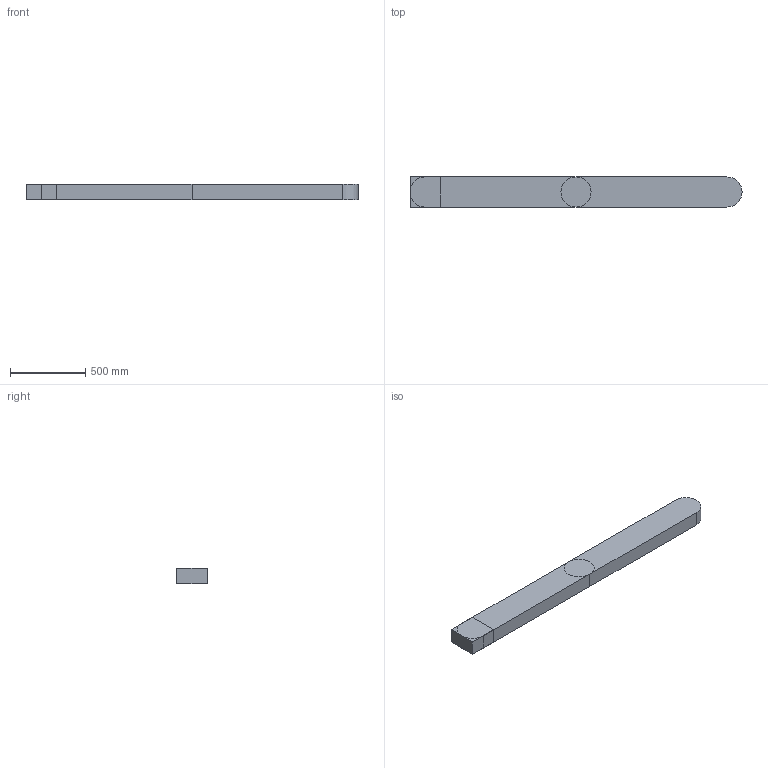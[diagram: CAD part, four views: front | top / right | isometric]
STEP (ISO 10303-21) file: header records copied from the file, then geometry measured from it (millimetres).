
FILE_DESCRIPTION((''),'2;1');
FILE_NAME('2DOFROBOT_ASM','2023-07-26T14:21:50',('AirAd'),(''),'CREO PARAMETRIC BY PTC INC, 2022073','CREO PARAMETRIC BY PTC INC, 2022073','');
FILE_SCHEMA(('CONFIG_CONTROL_DESIGN'));
Length unit declared in the file: millimetre
Products named in the file (3): LINKS; BOX; 2DOFROBOT_ASM
Assembly tree (3 placements, depth 2):
  2DOFROBOT_ASM
    LINKS  x2
    BOX
Bounding box: 2200 x 200 x 100 mm (x, y, z)
Surface area: 1611327.4 mm2
Topology: 3 solids, 3 shells, 18 faces, 44 edges, 32 vertices
Faces by surface type: plane 14, cylinder 4
Entity records: 448 total; most frequent: DIRECTION 72, CARTESIAN_POINT 66, ORIENTED_EDGE 56, EDGE_CURVE 28, AXIS2_PLACEMENT_3D 26, VECTOR 20, LINE 20, VERTEX_POINT 20
